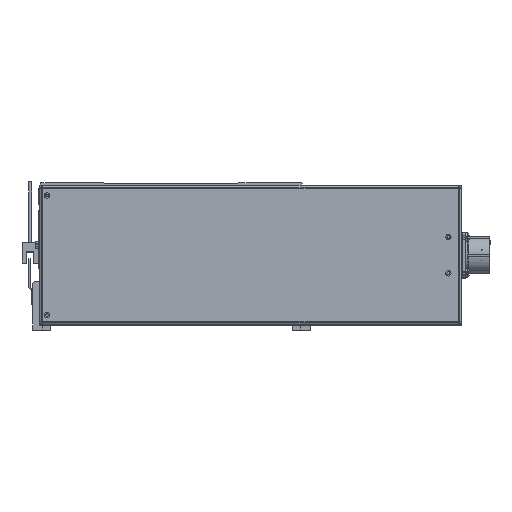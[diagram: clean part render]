
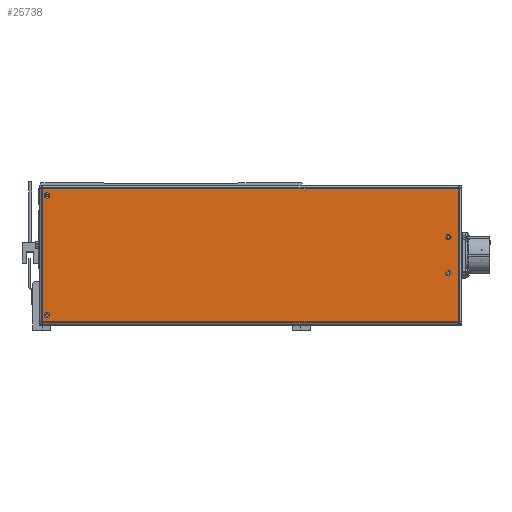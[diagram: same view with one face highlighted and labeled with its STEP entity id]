
A CAD part, front view. The second image highlights one B-rep face of the part: STEP entity #25738.
In plain terms, the highlighted planar face has unit normal (0, -1, 0) as drawn and (0, 0, 1) by its records, which use the part's own axes.
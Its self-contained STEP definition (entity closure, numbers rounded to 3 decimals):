
#417 = VERTEX_POINT ( 'NONE', #90413 ) ;
#1563 = LINE ( 'NONE', #100808, #83275 ) ;
#1751 = DIRECTION ( 'NONE',  ( 0., 0., 1. ) ) ;
#2286 = DIRECTION ( 'NONE',  ( 0., 0., 1. ) ) ;
#3337 = CARTESIAN_POINT ( 'NONE',  ( 186., 15., 72. ) ) ;
#3541 = FACE_BOUND ( 'NONE', #41816, .T. ) ;
#3658 = FACE_BOUND ( 'NONE', #91880, .T. ) ;
#5607 = DIRECTION ( 'NONE',  ( 1., 0., 0. ) ) ;
#6366 = DIRECTION ( 'NONE',  ( 0., 0., 1. ) ) ;
#6525 = CIRCLE ( 'NONE', #70801, 2.25 ) ;
#6731 = ORIENTED_EDGE ( 'NONE', *, *, #77770, .T. ) ;
#7442 = ORIENTED_EDGE ( 'NONE', *, *, #17989, .T. ) ;
#7623 = DIRECTION ( 'NONE',  ( 1., 0., 0. ) ) ;
#7652 = DIRECTION ( 'NONE',  ( -1., 0., 0. ) ) ;
#7900 = ORIENTED_EDGE ( 'NONE', *, *, #81405, .F. ) ;
#7976 = VERTEX_POINT ( 'NONE', #23237 ) ;
#9285 = CARTESIAN_POINT ( 'NONE',  ( 518.5, -49.5, 72. ) ) ;
#10460 = EDGE_CURVE ( 'NONE', #417, #62056, #89495, .T. ) ;
#10849 = VECTOR ( 'NONE', #50751, 1000. ) ;
#11935 = AXIS2_PLACEMENT_3D ( 'NONE', #3337, #96892, #89410 ) ;
#14003 = DIRECTION ( 'NONE',  ( 1., 0., 0. ) ) ;
#14319 = CIRCLE ( 'NONE', #78475, 2.25 ) ;
#14856 = PLANE ( 'NONE',  #24734 ) ;
#16200 = EDGE_CURVE ( 'NONE', #33064, #58665, #20421, .T. ) ;
#17372 = DIRECTION ( 'NONE',  ( 0., -1., 0. ) ) ;
#17989 = EDGE_CURVE ( 'NONE', #47954, #77106, #43211, .T. ) ;
#18022 = AXIS2_PLACEMENT_3D ( 'NONE', #9285, #1751, #94300 ) ;
#18372 = FACE_BOUND ( 'NONE', #70790, .T. ) ;
#18723 = DIRECTION ( 'NONE',  ( 1., 0., 0. ) ) ;
#20421 = CIRCLE ( 'NONE', #27087, 2.25 ) ;
#21368 = DIRECTION ( 'NONE',  ( 0., 0., 1. ) ) ;
#21830 = CIRCLE ( 'NONE', #65961, 2.25 ) ;
#23237 = CARTESIAN_POINT ( 'NONE',  ( 188.25, 15., 72. ) ) ;
#24734 = AXIS2_PLACEMENT_3D ( 'NONE', #69310, #44805, #52610 ) ;
#25738 = ADVANCED_FACE ( 'NONE', ( #3541, #68213, #18372, #3658, #42683 ), #14856, .T. ) ;
#27087 = AXIS2_PLACEMENT_3D ( 'NONE', #51121, #28380, #82738 ) ;
#28380 = DIRECTION ( 'NONE',  ( 0., 0., 1. ) ) ;
#28749 = EDGE_CURVE ( 'NONE', #7976, #59651, #69911, .T. ) ;
#30339 = AXIS2_PLACEMENT_3D ( 'NONE', #45775, #92963, #7623 ) ;
#30738 = CARTESIAN_POINT ( 'NONE',  ( 522.26, 55.26, 72. ) ) ;
#32736 = VERTEX_POINT ( 'NONE', #30738 ) ;
#33064 = VERTEX_POINT ( 'NONE', #67119 ) ;
#35756 = VERTEX_POINT ( 'NONE', #65155 ) ;
#35813 = CARTESIAN_POINT ( 'NONE',  ( 177.707, -55.26, 72. ) ) ;
#37978 = CIRCLE ( 'NONE', #66806, 2.25 ) ;
#40075 = ORIENTED_EDGE ( 'NONE', *, *, #84402, .T. ) ;
#41106 = EDGE_CURVE ( 'NONE', #77106, #32736, #77809, .T. ) ;
#41816 = EDGE_LOOP ( 'NONE', ( #69350, #75639 ) ) ;
#42020 = EDGE_LOOP ( 'NONE', ( #6731, #40075, #7442, #79069 ) ) ;
#42683 = FACE_OUTER_BOUND ( 'NONE', #42020, .T. ) ;
#42849 = EDGE_CURVE ( 'NONE', #35756, #90106, #21830, .T. ) ;
#43211 = LINE ( 'NONE', #35813, #86846 ) ;
#43364 = CIRCLE ( 'NONE', #30339, 2.25 ) ;
#44375 = ORIENTED_EDGE ( 'NONE', *, *, #42849, .F. ) ;
#44805 = DIRECTION ( 'NONE',  ( 0., 0., 1. ) ) ;
#45775 = CARTESIAN_POINT ( 'NONE',  ( 186., -15., 72. ) ) ;
#47954 = VERTEX_POINT ( 'NONE', #73612 ) ;
#49658 = CARTESIAN_POINT ( 'NONE',  ( 518.5, -49.5, 72. ) ) ;
#50751 = DIRECTION ( 'NONE',  ( 0., 1., 0. ) ) ;
#51121 = CARTESIAN_POINT ( 'NONE',  ( 186., -15., 72. ) ) ;
#52610 = DIRECTION ( 'NONE',  ( 1., 0., 0. ) ) ;
#53274 = CARTESIAN_POINT ( 'NONE',  ( 186., 15., 72. ) ) ;
#54321 = VECTOR ( 'NONE', #17372, 1000. ) ;
#54700 = CARTESIAN_POINT ( 'NONE',  ( 177.74, 55.26, 72. ) ) ;
#57992 = DIRECTION ( 'NONE',  ( 0., 0., 1. ) ) ;
#58665 = VERTEX_POINT ( 'NONE', #99049 ) ;
#58974 = ORIENTED_EDGE ( 'NONE', *, *, #73675, .F. ) ;
#59651 = VERTEX_POINT ( 'NONE', #90349 ) ;
#60913 = DIRECTION ( 'NONE',  ( 1., 0., 0. ) ) ;
#60989 = CARTESIAN_POINT ( 'NONE',  ( 522.26, -55.26, 72. ) ) ;
#62056 = VERTEX_POINT ( 'NONE', #89610 ) ;
#65155 = CARTESIAN_POINT ( 'NONE',  ( 516.25, 49.5, 72. ) ) ;
#65313 = VERTEX_POINT ( 'NONE', #54700 ) ;
#65961 = AXIS2_PLACEMENT_3D ( 'NONE', #89885, #57992, #82085 ) ;
#66491 = EDGE_CURVE ( 'NONE', #90106, #35756, #14319, .T. ) ;
#66806 = AXIS2_PLACEMENT_3D ( 'NONE', #49658, #2286, #18723 ) ;
#67119 = CARTESIAN_POINT ( 'NONE',  ( 188.25, -15., 72. ) ) ;
#68213 = FACE_BOUND ( 'NONE', #83250, .T. ) ;
#69310 = CARTESIAN_POINT ( 'NONE',  ( 350., 0., 72. ) ) ;
#69350 = ORIENTED_EDGE ( 'NONE', *, *, #28749, .F. ) ;
#69911 = CIRCLE ( 'NONE', #11935, 2.25 ) ;
#70790 = EDGE_LOOP ( 'NONE', ( #75093, #44375 ) ) ;
#70801 = AXIS2_PLACEMENT_3D ( 'NONE', #53274, #21368, #5607 ) ;
#73612 = CARTESIAN_POINT ( 'NONE',  ( 177.74, -55.26, 72. ) ) ;
#73675 = EDGE_CURVE ( 'NONE', #58665, #33064, #43364, .T. ) ;
#75093 = ORIENTED_EDGE ( 'NONE', *, *, #66491, .F. ) ;
#75114 = EDGE_CURVE ( 'NONE', #59651, #7976, #6525, .T. ) ;
#75639 = ORIENTED_EDGE ( 'NONE', *, *, #75114, .F. ) ;
#77106 = VERTEX_POINT ( 'NONE', #60989 ) ;
#77449 = LINE ( 'NONE', #95194, #54321 ) ;
#77770 = EDGE_CURVE ( 'NONE', #32736, #65313, #1563, .T. ) ;
#77809 = LINE ( 'NONE', #88805, #10849 ) ;
#78475 = AXIS2_PLACEMENT_3D ( 'NONE', #83943, #6366, #60913 ) ;
#79069 = ORIENTED_EDGE ( 'NONE', *, *, #41106, .T. ) ;
#80733 = ORIENTED_EDGE ( 'NONE', *, *, #16200, .F. ) ;
#81405 = EDGE_CURVE ( 'NONE', #62056, #417, #37978, .T. ) ;
#82085 = DIRECTION ( 'NONE',  ( 1., 0., 0. ) ) ;
#82307 = ORIENTED_EDGE ( 'NONE', *, *, #10460, .F. ) ;
#82738 = DIRECTION ( 'NONE',  ( 1., 0., 0. ) ) ;
#83250 = EDGE_LOOP ( 'NONE', ( #80733, #58974 ) ) ;
#83275 = VECTOR ( 'NONE', #7652, 1000. ) ;
#83943 = CARTESIAN_POINT ( 'NONE',  ( 518.5, 49.5, 72. ) ) ;
#84402 = EDGE_CURVE ( 'NONE', #65313, #47954, #77449, .T. ) ;
#85149 = CARTESIAN_POINT ( 'NONE',  ( 520.75, 49.5, 72. ) ) ;
#86846 = VECTOR ( 'NONE', #14003, 1000. ) ;
#88805 = CARTESIAN_POINT ( 'NONE',  ( 522.26, -55.293, 72. ) ) ;
#89410 = DIRECTION ( 'NONE',  ( 1., 0., 0. ) ) ;
#89495 = CIRCLE ( 'NONE', #18022, 2.25 ) ;
#89610 = CARTESIAN_POINT ( 'NONE',  ( 516.25, -49.5, 72. ) ) ;
#89885 = CARTESIAN_POINT ( 'NONE',  ( 518.5, 49.5, 72. ) ) ;
#90106 = VERTEX_POINT ( 'NONE', #85149 ) ;
#90349 = CARTESIAN_POINT ( 'NONE',  ( 183.75, 15., 72. ) ) ;
#90413 = CARTESIAN_POINT ( 'NONE',  ( 520.75, -49.5, 72. ) ) ;
#91880 = EDGE_LOOP ( 'NONE', ( #82307, #7900 ) ) ;
#92963 = DIRECTION ( 'NONE',  ( 0., 0., 1. ) ) ;
#94300 = DIRECTION ( 'NONE',  ( 1., 0., 0. ) ) ;
#95194 = CARTESIAN_POINT ( 'NONE',  ( 177.74, 55.293, 72. ) ) ;
#96892 = DIRECTION ( 'NONE',  ( 0., 0., 1. ) ) ;
#99049 = CARTESIAN_POINT ( 'NONE',  ( 183.75, -15., 72. ) ) ;
#100808 = CARTESIAN_POINT ( 'NONE',  ( 522.293, 55.26, 72. ) ) ;
